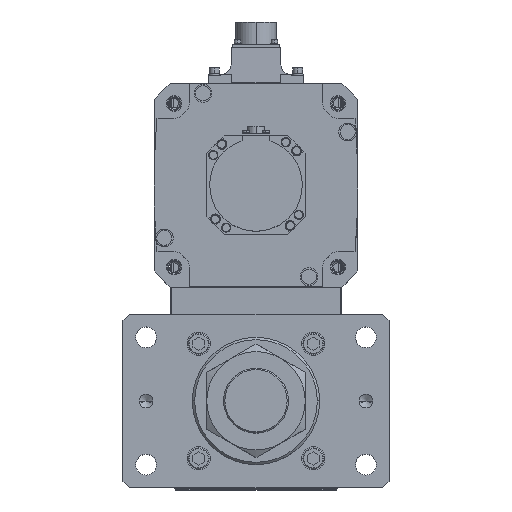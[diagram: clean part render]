
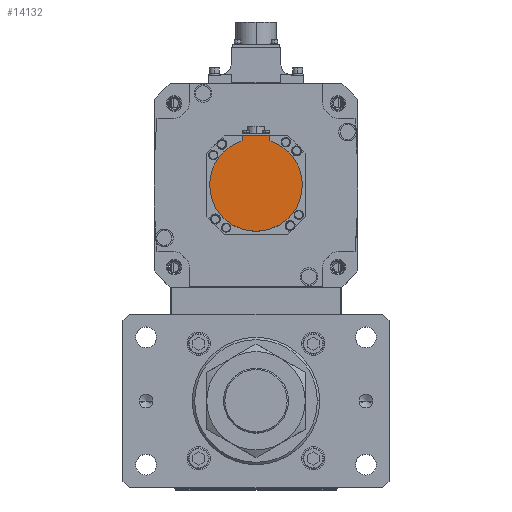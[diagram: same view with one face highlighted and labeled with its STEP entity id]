
A CAD part, top view. The second image highlights one B-rep face of the part: STEP entity #14132.
In plain terms, the highlighted planar face has unit normal (0, 0, 1) as drawn and (0, 0, -1) by its records, which use the part's own axes.
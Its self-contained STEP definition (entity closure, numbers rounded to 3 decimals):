
#1753 = CARTESIAN_POINT ( 'NONE',  ( -12., -42.5, -162.5 ) ) ;
#2041 = VECTOR ( 'NONE', #31859, 1000. ) ;
#2245 = ORIENTED_EDGE ( 'NONE', *, *, #42442, .T. ) ;
#3374 = CARTESIAN_POINT ( 'NONE',  ( 0., 0., -162.5 ) ) ;
#3404 = ORIENTED_EDGE ( 'NONE', *, *, #40214, .F. ) ;
#3577 = DIRECTION ( 'NONE',  ( 0., 0., 1. ) ) ;
#4151 = AXIS2_PLACEMENT_3D ( 'NONE', #3374, #52080, #14982 ) ;
#5819 = VERTEX_POINT ( 'NONE', #9196 ) ;
#8142 = VECTOR ( 'NONE', #31476, 1000. ) ;
#9196 = CARTESIAN_POINT ( 'NONE',  ( 40., 0., -162.5 ) ) ;
#9220 = ORIENTED_EDGE ( 'NONE', *, *, #32230, .F. ) ;
#10350 = VERTEX_POINT ( 'NONE', #30637 ) ;
#10743 = EDGE_CURVE ( 'NONE', #40186, #12065, #22223, .T. ) ;
#10750 = EDGE_CURVE ( 'NONE', #32764, #5819, #41286, .T. ) ;
#11370 = CARTESIAN_POINT ( 'NONE',  ( 0., -42.5, -162.5 ) ) ;
#12065 = VERTEX_POINT ( 'NONE', #26507 ) ;
#12421 = ORIENTED_EDGE ( 'NONE', *, *, #10743, .T. ) ;
#14132 = ADVANCED_FACE ( 'NONE', ( #18350 ), #30830, .F. ) ;
#14549 = CARTESIAN_POINT ( 'NONE',  ( 0., -1.249, -162.5 ) ) ;
#14982 = DIRECTION ( 'NONE',  ( 1., 0., 0. ) ) ;
#15591 = AXIS2_PLACEMENT_3D ( 'NONE', #46457, #22143, #20880 ) ;
#16451 = VECTOR ( 'NONE', #39735, 1000. ) ;
#18350 = FACE_OUTER_BOUND ( 'NONE', #37680, .T. ) ;
#20880 = DIRECTION ( 'NONE',  ( 1., 0., 0. ) ) ;
#21103 = CARTESIAN_POINT ( 'NONE',  ( 12., -42.5, -162.5 ) ) ;
#22143 = DIRECTION ( 'NONE',  ( 0., 0., 1. ) ) ;
#22223 = LINE ( 'NONE', #31648, #8142 ) ;
#24387 = AXIS2_PLACEMENT_3D ( 'NONE', #14549, #51469, #43080 ) ;
#26507 = CARTESIAN_POINT ( 'NONE',  ( -12., -38.158, -162.5 ) ) ;
#27349 = LINE ( 'NONE', #11370, #16451 ) ;
#30637 = CARTESIAN_POINT ( 'NONE',  ( -40., 0., -162.5 ) ) ;
#30830 = PLANE ( 'NONE',  #24387 ) ;
#31452 = ORIENTED_EDGE ( 'NONE', *, *, #10750, .F. ) ;
#31476 = DIRECTION ( 'NONE',  ( 0., 1., 0. ) ) ;
#31648 = CARTESIAN_POINT ( 'NONE',  ( -12., -40.329, -162.5 ) ) ;
#31859 = DIRECTION ( 'NONE',  ( 0., 1., 0. ) ) ;
#31876 = ORIENTED_EDGE ( 'NONE', *, *, #51623, .F. ) ;
#32002 = CARTESIAN_POINT ( 'NONE',  ( 0., 0., -162.5 ) ) ;
#32230 = EDGE_CURVE ( 'NONE', #10350, #12065, #43843, .T. ) ;
#32764 = VERTEX_POINT ( 'NONE', #41764 ) ;
#35218 = LINE ( 'NONE', #48011, #2041 ) ;
#35260 = VERTEX_POINT ( 'NONE', #21103 ) ;
#35717 = DIRECTION ( 'NONE',  ( 1., 0., 0. ) ) ;
#37680 = EDGE_LOOP ( 'NONE', ( #12421, #9220, #3404, #31452, #31876, #2245 ) ) ;
#39540 = AXIS2_PLACEMENT_3D ( 'NONE', #32002, #3577, #35717 ) ;
#39735 = DIRECTION ( 'NONE',  ( -1., 0., 0. ) ) ;
#40186 = VERTEX_POINT ( 'NONE', #1753 ) ;
#40214 = EDGE_CURVE ( 'NONE', #5819, #10350, #46266, .T. ) ;
#41286 = CIRCLE ( 'NONE', #39540, 40. ) ;
#41764 = CARTESIAN_POINT ( 'NONE',  ( 12., -38.158, -162.5 ) ) ;
#42442 = EDGE_CURVE ( 'NONE', #35260, #40186, #27349, .T. ) ;
#43080 = DIRECTION ( 'NONE',  ( 1., 0., 0. ) ) ;
#43843 = CIRCLE ( 'NONE', #4151, 40. ) ;
#46266 = CIRCLE ( 'NONE', #15591, 40. ) ;
#46457 = CARTESIAN_POINT ( 'NONE',  ( 0., 0., -162.5 ) ) ;
#48011 = CARTESIAN_POINT ( 'NONE',  ( 12., -1.249, -162.5 ) ) ;
#51469 = DIRECTION ( 'NONE',  ( 0., 0., 1. ) ) ;
#51623 = EDGE_CURVE ( 'NONE', #35260, #32764, #35218, .T. ) ;
#52080 = DIRECTION ( 'NONE',  ( 0., 0., 1. ) ) ;
